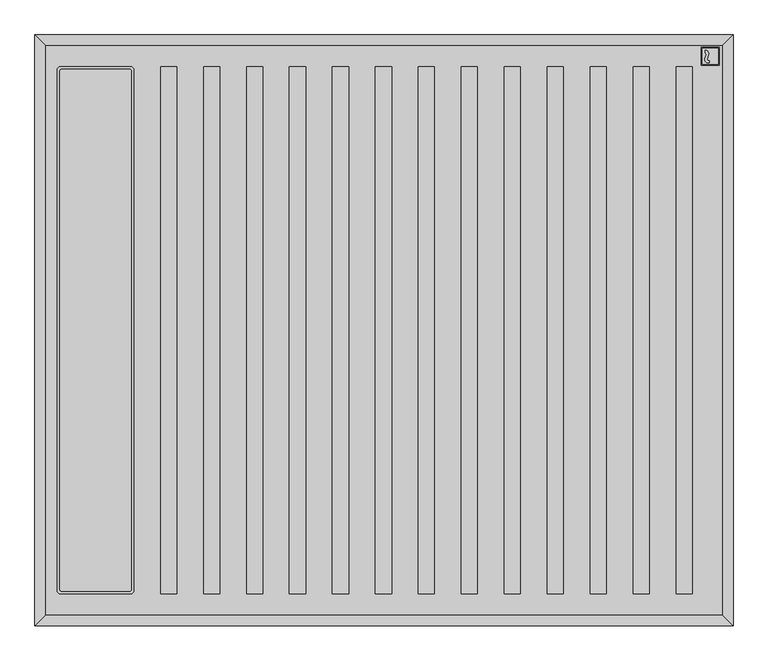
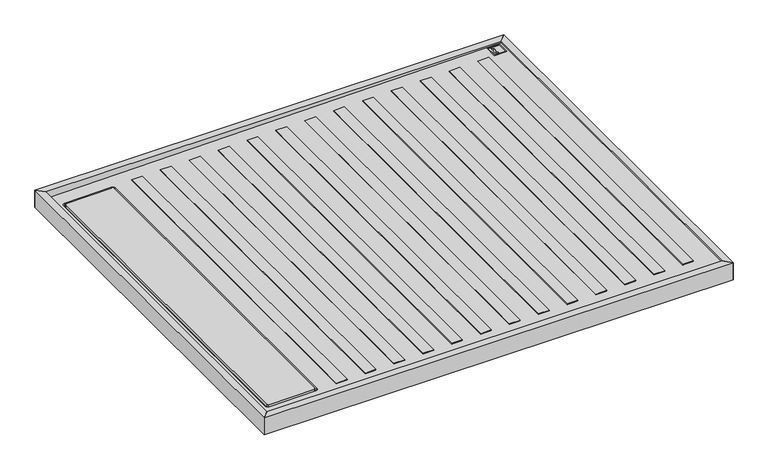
"""IFC4 building model written with IfcOpenShell, lengths in millimetres: flow terminal geometry, Sanitary_Shower-trays_Cosentino_Kador : Kador_130*125."""

from ifc_helpers import new_model, si_unit, point, frame, frame_2d, origin, origin_with_axes, place, context, project, spatial, polyline, circle_curve, ellipse_curve, trimmed, segment, composite_curve, outline, extrude, source, transform, mapped, element, save
from ifc_brep_helpers import plane_surface, cylinder_surface, revolved_surface, advanced_brep


def flow_terminal_0c8ecf02(model_context):
    return source(origin(), model_context, "Body", "SolidModel", [
        advanced_brep(
        [(-470.5, -482.5, 33.7436921), (-470.5, 482.5, 33.7436921), (-474.0, 486.0, 33.7018727), (-600.0, 486.0, 32.1963775), (-603.5, 482.5, 32.1545582), (-603.5, -482.5, 32.1545582), (-600.0, -486.0, 32.1963775), (-474.0, -486.0, 33.7018727), (-474.0, -486.0, 24.9415704), (-600.0, -486.0, 24.9415704), (-603.5, -482.5, 24.9415704), (-603.5, 482.5, 24.9415704), (-600.0, 486.0, 24.9415704), (-474.0, 486.0, 24.9415704), (-470.5, 482.5, 24.9415704), (-470.5, -482.5, 24.9415704)],
        [
            (0, 1),
            (1, 2, ellipse_curve(frame((-474.0, 482.5, 33.7018727), z_axis=(-0.011947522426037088, 0.0, 0.999928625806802), x_axis=(0.999928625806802, 0.0, 0.011947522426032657)), 3.5002498, 3.5)),
            (2, 3),
            (3, 4, ellipse_curve(frame((-600.0, 482.5, 32.1963775), z_axis=(-0.011947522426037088, 0.0, 0.999928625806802), x_axis=(0.999928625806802, 0.0, 0.011947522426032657)), 3.5002498, 3.5)),
            (4, 5),
            (5, 6, ellipse_curve(frame((-600.0, -482.5, 32.1963775), z_axis=(-0.011947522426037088, 0.0, 0.999928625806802), x_axis=(0.999928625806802, 0.0, 0.011947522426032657)), 3.5002498, 3.5)),
            (6, 7),
            (7, 0, ellipse_curve(frame((-474.0, -482.5, 33.7018727), z_axis=(-0.011947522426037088, 0.0, 0.999928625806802), x_axis=(0.999928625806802, 0.0, 0.011947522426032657)), 3.5002498, 3.5)),
            (8, 9),
            (9, 10, circle_curve(frame((-600.0, -482.5, 24.9415704), z_axis=(0.0, 0.0, -1.0), x_axis=(1.0, 0.0, 0.0)), 3.5)),
            (10, 11),
            (11, 12, circle_curve(frame((-600.0, 482.5, 24.9415704), z_axis=(0.0, 0.0, -1.0), x_axis=(1.0, 0.0, 0.0)), 3.5)),
            (12, 13),
            (13, 14, circle_curve(frame((-474.0, 482.5, 24.9415704), z_axis=(0.0, 0.0, -1.0), x_axis=(1.0, 0.0, 0.0)), 3.5)),
            (14, 15),
            (15, 8, circle_curve(frame((-474.0, -482.5, 24.9415704), z_axis=(0.0, 0.0, -1.0), x_axis=(1.0, 0.0, 0.0)), 3.5)),
            (14, 1),
            (0, 15),
            (12, 3),
            (2, 13),
            (10, 5),
            (4, 11),
            (8, 7),
            (6, 9),
        ],
        [
            plane_surface(frame((631.0, 531.0, 46.9048274), z_axis=(-0.011947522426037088, 0.0, 0.999928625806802), x_axis=(0.0, -1.0, 0.0))),
            plane_surface(frame((-470.5, -482.5, 24.9415704), z_axis=(0.0, 0.0, -1.0), x_axis=(0.0, -1.0, 0.0))),
            plane_surface(frame((-470.5, -482.5, 45.0), z_axis=(1.0, 0.0, 0.0), x_axis=(0.0, 0.0, -1.0))),
            plane_surface(frame((-474.0, 486.0, 45.0), z_axis=(0.0, 1.0, 0.0), x_axis=(0.0, 0.0, -1.0))),
            plane_surface(frame((-603.5, 482.5, 45.0), z_axis=(-1.0, 0.0, 0.0), x_axis=(0.0, 0.0, -1.0))),
            plane_surface(frame((-600.0, -486.0, 45.0), z_axis=(0.0, -1.0, 0.0), x_axis=(0.0, 0.0, -1.0))),
            cylinder_surface(frame((-474.0, -482.5, 24.9415704), z_axis=(0.0, 0.0, 1.0), x_axis=(1.0, 0.0, 0.0)), 3.5),
            cylinder_surface(frame((-474.0, 482.5, 24.9415704), z_axis=(0.0, 0.0, 1.0), x_axis=(1.0, 0.0, 0.0)), 3.5),
            cylinder_surface(frame((-600.0, 482.5, 24.9415704), z_axis=(0.0, 0.0, 1.0), x_axis=(1.0, 0.0, 0.0)), 3.5),
            cylinder_surface(frame((-600.0, -482.5, 24.9415704), z_axis=(0.0, 0.0, 1.0), x_axis=(1.0, 0.0, 0.0)), 3.5),
        ],
        [
            (0, [[1, 2, 3, 4, 5, 6, 7, 8]]),
            (1, [[9, 10, 11, 12, 13, 14, 15, 16]]),
            (2, [[-15, 17, -1, 18]]),
            (3, [[-13, 19, -3, 20]]),
            (4, [[-11, 21, -5, 22]]),
            (5, [[-9, 23, -7, 24]]),
            (6, [[-16, -18, -8, -23]]),
            (7, [[-14, -20, -2, -17]]),
            (8, [[-12, -22, -4, -19]]),
            (9, [[-10, -24, -6, -21]]),
        ],
    ),
        extrude(outline(polyline([(34.3948785, -416.0), (10.0, -416.0), (10.0, -386.0), (34.7533298, -386.0), (34.3948785, -416.0)])), frame((0.0, -491.0, 0.0), z_axis=(0.0, 1.0, 0.0), x_axis=(0.0, 0.0, 1.0)), (0.0, 0.0, 1.0), 982.0),
        extrude(outline(polyline([(35.3507485, -336.0), (10.0, -336.0), (10.0, -306.0), (35.7091998, -306.0), (35.3507485, -336.0)])), frame((0.0, -491.0, 0.0), z_axis=(0.0, 1.0, 0.0), x_axis=(0.0, 0.0, 1.0)), (0.0, 0.0, 1.0), 982.0),
        extrude(outline(polyline([(36.3066185, -256.0), (10.0, -256.0), (10.0, -226.0), (36.6650698, -226.0), (36.3066185, -256.0)])), frame((0.0, -491.0, 0.0), z_axis=(0.0, 1.0, 0.0), x_axis=(0.0, 0.0, 1.0)), (0.0, 0.0, 1.0), 982.0),
        extrude(outline(polyline([(37.2624886, -176.0), (10.0, -176.0), (10.0, -146.0), (37.6209398, -146.0), (37.2624886, -176.0)])), frame((0.0, -491.0, 0.0), z_axis=(0.0, 1.0, 0.0), x_axis=(0.0, 0.0, 1.0)), (0.0, 0.0, 1.0), 982.0),
        extrude(outline(polyline([(38.2183586, -96.0), (10.0, -96.0), (10.0, -66.0), (38.5768098, -66.0), (38.2183586, -96.0)])), frame((0.0, -491.0, 0.0), z_axis=(0.0, 1.0, 0.0), x_axis=(0.0, 0.0, 1.0)), (0.0, 0.0, 1.0), 982.0),
        extrude(outline(polyline([(39.1742286, -16.0), (10.0, -16.0), (10.0, 14.0), (39.5326799, 14.0), (39.1742286, -16.0)])), frame((0.0, -491.0, 0.0), z_axis=(0.0, 1.0, 0.0), x_axis=(0.0, 0.0, 1.0)), (0.0, 0.0, 1.0), 982.0),
        extrude(outline(polyline([(40.1300986, 64.0), (10.0, 64.0), (10.0, 94.0), (40.4885499, 94.0), (40.1300986, 64.0)])), frame((0.0, -491.0, 0.0), z_axis=(0.0, 1.0, 0.0), x_axis=(0.0, 0.0, 1.0)), (0.0, 0.0, 1.0), 982.0),
        extrude(outline(polyline([(41.0859686, 144.0), (10.0, 144.0), (10.0, 174.0), (41.4444199, 174.0), (41.0859686, 144.0)])), frame((0.0, -491.0, 0.0), z_axis=(0.0, 1.0, 0.0), x_axis=(0.0, 0.0, 1.0)), (0.0, 0.0, 1.0), 982.0),
        extrude(outline(polyline([(42.0418387, 224.0), (10.0, 224.0), (10.0, 254.0), (42.4002899, 254.0), (42.0418387, 224.0)])), frame((0.0, -491.0, 0.0), z_axis=(0.0, 1.0, 0.0), x_axis=(0.0, 0.0, 1.0)), (0.0, 0.0, 1.0), 982.0),
        extrude(outline(polyline([(42.9977087, 304.0), (10.0, 304.0), (10.0, 334.0), (43.3561599, 334.0), (42.9977087, 304.0)])), frame((0.0, -491.0, 0.0), z_axis=(0.0, 1.0, 0.0), x_axis=(0.0, 0.0, 1.0)), (0.0, 0.0, 1.0), 982.0),
        extrude(outline(polyline([(43.9535787, 384.0), (10.0, 384.0), (10.0, 414.0), (44.31203, 414.0), (43.9535787, 384.0)])), frame((0.0, -491.0, 0.0), z_axis=(0.0, 1.0, 0.0), x_axis=(0.0, 0.0, 1.0)), (0.0, 0.0, 1.0), 982.0),
        extrude(outline(polyline([(44.9094487, 464.0), (10.0, 464.0), (10.0, 494.0), (45.2679, 494.0), (44.9094487, 464.0)])), frame((0.0, -491.0, 0.0), z_axis=(0.0, 1.0, 0.0), x_axis=(0.0, 0.0, 1.0)), (0.0, 0.0, 1.0), 982.0),
        extrude(outline(polyline([(45.8653187, 544.0), (10.0, 544.0), (10.0, 574.0), (46.22377, 574.0), (45.8653187, 544.0)])), frame((0.0, -491.0, 0.0), z_axis=(0.0, 1.0, 0.0), x_axis=(0.0, 0.0, 1.0)), (0.0, 0.0, 1.0), 982.0),
        extrude(outline(polyline([(622.4465505, 525.0929987), (622.4465505, 495.0929987), (592.4465505, 495.0929987), (592.4465505, 525.0929987), (622.4465505, 525.0929987)]), holes=[composite_curve([segment(trimmed(circle_curve(frame_2d((597.7589199, 514.8267757)), 6.7237776), [point((604.1850983, 512.8485396))], [point((598.2600314, 521.5318539))], True, "CARTESIAN"), True, "CONTINUOUS"), segment(polyline([(598.2600314, 521.5318539), (598.2600314, 516.8622316)]), True, "CONTINUOUS"), segment(trimmed(circle_curve(frame_2d((596.3194795, 514.019131)), 3.4422322), [point((598.2600314, 516.8622316))], [point((599.6348515, 513.0932417))], False, "CARTESIAN"), True, "CONTINUOUS"), segment(polyline([(599.6348515, 513.0932417), (597.6685309, 505.7548335)]), True, "CONTINUOUS"), segment(trimmed(circle_curve(frame_2d((603.9268061, 504.2134148)), 6.4453068), [point((597.6685309, 505.7548335))], [point((603.484187, 497.7833239))], True, "CARTESIAN"), True, "CONTINUOUS"), segment(polyline([(603.484187, 497.7833239), (605.5372593, 497.7185302), (605.5372593, 501.7403535), (604.5568828, 501.7561179)]), True, "CONTINUOUS"), segment(trimmed(circle_curve(frame_2d((604.590467, 504.3476489)), 2.5917486), [point((604.5568828, 501.7561179))], [point((602.0870301, 505.0184428))], False, "CARTESIAN"), True, "CONTINUOUS"), segment(polyline([(602.0870301, 505.0184428), (604.1850983, 512.8485396)]), True, "CONTINUOUS")], self_intersect=False)]), frame((0.0, 0.0, 30.3616701), z_axis=(0.0, 0.0, 1.0), x_axis=(1.0, 0.0, 0.0)), (0.0, 0.0, 1.0), 14.6383299),
        extrude(outline(polyline([(624.4465505, 527.0929987), (624.4465505, 493.0929987), (590.4465505, 493.0929987), (590.4465505, 527.0929987), (624.4465505, 527.0929987)]), holes=[polyline([(592.4465505, 525.0929987), (592.4465505, 495.0929987), (622.4465505, 495.0929987), (622.4465505, 525.0929987), (592.4465505, 525.0929987)])]), frame((0.0, 0.0, 30.3616701), z_axis=(0.0, 0.0, 1.0), x_axis=(1.0, 0.0, 0.0)), (0.0, 0.0, 1.0), 14.6383299),
        extrude(outline(composite_curve([segment(polyline([(604.1850983, 512.8485396), (602.0870301, 505.0184428)]), True, "CONTINUOUS"), segment(trimmed(circle_curve(frame_2d((604.590467, 504.3476489)), 2.5917486), [point((602.0870301, 505.0184428))], [point((604.5568828, 501.7561179))], True, "CARTESIAN"), True, "CONTINUOUS"), segment(polyline([(604.5568828, 501.7561179), (605.5372593, 501.7403535), (605.5372593, 497.7185302), (603.484187, 497.7833239)]), True, "CONTINUOUS"), segment(trimmed(circle_curve(frame_2d((603.9268061, 504.2134148)), 6.4453068), [point((603.484187, 497.7833239))], [point((597.6685309, 505.7548335))], False, "CARTESIAN"), True, "CONTINUOUS"), segment(polyline([(597.6685309, 505.7548335), (599.6348515, 513.0932417)]), True, "CONTINUOUS"), segment(trimmed(circle_curve(frame_2d((596.3194795, 514.019131)), 3.4422322), [point((599.6348515, 513.0932417))], [point((598.2600314, 516.8622316))], True, "CARTESIAN"), True, "CONTINUOUS"), segment(polyline([(598.2600314, 516.8622316), (598.2600314, 521.5318539)]), True, "CONTINUOUS"), segment(trimmed(circle_curve(frame_2d((597.7589199, 514.8267757)), 6.7237776), [point((598.2600314, 521.5318539))], [point((604.1850983, 512.8485396))], False, "CARTESIAN"), True, "CONTINUOUS")], self_intersect=False)), frame((0.0, 0.0, 30.3616701), z_axis=(0.0, 0.0, 1.0), x_axis=(1.0, 0.0, 0.0)), (0.0, 0.0, 1.0), 14.6383299),
        advanced_brep(
        [(-631.0, -531.0, 29.925985), (-631.0, -531.0, 10.0), (-620.0, -531.0, 10.0), (631.0, -531.0, 23.0), (631.0, -531.0, 45.0048345), (-631.0, 531.0, 29.925985), (631.0, 531.0, 45.0048345), (631.0, 531.0, 23.0), (-620.0, 531.0, 10.0), (-631.0, 531.0, 10.0), (-575.000878, 0.0, 10.4676168), (-485.000878, 0.0, 11.4028686), (-472.500878, 0.0, 22.0), (-476.7898918, 0.0, 20.0), (-583.2118642, 0.0, 20.0), (-587.500878, 0.0, 22.0), (-485.000878, 0.0, 20.0), (-575.000878, 0.0, 20.0), (-608.5, -484.5, 30.1948234), (-608.5, 484.5, 30.1948234), (-602.0, 491.0, 30.2724879), (-472.0, 491.0, 31.8257766), (-465.5, 484.5, 31.9034411), (-465.5, -484.5, 31.9034411), (-472.0, -491.0, 31.8257766), (-602.0, -491.0, 30.2724879), (-608.5, 484.5, 22.0), (-608.5, -484.5, 22.0), (-602.0, -491.0, 22.0), (-472.0, -491.0, 22.0), (-465.5, -484.5, 22.0), (-465.5, 484.5, 22.0), (-472.0, 491.0, 22.0), (-602.0, 491.0, 22.0)],
        [
            (0, 1),
            (1, 2),
            (2, 3),
            (3, 4),
            (4, 0),
            (5, 6),
            (6, 7),
            (7, 8),
            (8, 9),
            (9, 5),
            (0, 5),
            (9, 1),
            (8, 2),
            (7, 3),
            (10, 11, ellipse_curve(frame((-530.000878, 0.0, 10.9352427), z_axis=(-0.01039112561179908, 0.0, 0.999946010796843), x_axis=(0.9999460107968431, 0.0, 0.010391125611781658)), 45.0024296, 45.0)),
            (11, 10, ellipse_curve(frame((-530.000878, 0.0, 10.9352427), z_axis=(-0.01039112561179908, 0.0, 0.999946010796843), x_axis=(0.9999460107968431, 0.0, 0.010391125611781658)), 45.0024296, 45.0)),
            (12, 13),
            (13, 14, circle_curve(frame((-530.000878, 0.0, 20.0), z_axis=(0.0, 0.0, -1.0), x_axis=(-1.0, 0.0, 0.0)), 53.2109862)),
            (14, 15),
            (15, 12, circle_curve(frame((-530.000878, 0.0, 22.0), z_axis=(0.0, 0.0, 1.0), x_axis=(-1.0, 0.0, 0.0)), 57.5)),
            (12, 15, circle_curve(frame((-530.000878, 0.0, 22.0), z_axis=(0.0, 0.0, 1.0), x_axis=(-1.0, 0.0, 0.0)), 57.5)),
            (14, 13, circle_curve(frame((-530.000878, 0.0, 20.0), z_axis=(0.0, 0.0, -1.0), x_axis=(-1.0, 0.0, 0.0)), 53.2109862)),
            (13, 16),
            (16, 17, circle_curve(frame((-530.000878, 0.0, 20.0), z_axis=(0.0, 0.0, -1.0), x_axis=(-1.0, 0.0, 0.0)), 45.0)),
            (17, 14),
            (17, 16, circle_curve(frame((-530.000878, 0.0, 20.0), z_axis=(0.0, 0.0, -1.0), x_axis=(-1.0, 0.0, 0.0)), 45.0)),
            (16, 11),
            (10, 17),
            (6, 4),
            (18, 19),
            (19, 20, ellipse_curve(frame((-602.0, 484.5, 30.2724879), z_axis=(0.011947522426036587, 0.0, -0.999928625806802), x_axis=(0.9999286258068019, 0.0, 0.011947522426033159)), 6.500464, 6.5)),
            (20, 21),
            (21, 22, ellipse_curve(frame((-472.0, 484.5, 31.8257766), z_axis=(0.011947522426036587, 0.0, -0.999928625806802), x_axis=(0.9999286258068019, 0.0, 0.011947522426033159)), 6.500464, 6.5)),
            (22, 23),
            (23, 24, ellipse_curve(frame((-472.0, -484.5, 31.8257766), z_axis=(0.011947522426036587, 0.0, -0.999928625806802), x_axis=(0.9999286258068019, 0.0, 0.011947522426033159)), 6.500464, 6.5)),
            (24, 25),
            (25, 18, ellipse_curve(frame((-602.0, -484.5, 30.2724879), z_axis=(0.011947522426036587, 0.0, -0.999928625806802), x_axis=(0.9999286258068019, 0.0, 0.011947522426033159)), 6.500464, 6.5)),
            (26, 27),
            (27, 28, circle_curve(frame((-602.0, -484.5, 22.0), z_axis=(0.0, 0.0, 1.0), x_axis=(1.0, 0.0, 0.0)), 6.5)),
            (28, 29),
            (29, 30, circle_curve(frame((-472.0, -484.5, 22.0), z_axis=(0.0, 0.0, 1.0), x_axis=(1.0, 0.0, 0.0)), 6.5)),
            (30, 31),
            (31, 32, circle_curve(frame((-472.0, 484.5, 22.0), z_axis=(0.0, 0.0, 1.0), x_axis=(1.0, 0.0, 0.0)), 6.5)),
            (32, 33),
            (33, 26, circle_curve(frame((-602.0, 484.5, 22.0), z_axis=(0.0, 0.0, 1.0), x_axis=(1.0, 0.0, 0.0)), 6.5)),
            (26, 19),
            (18, 27),
            (25, 28),
            (24, 29),
            (23, 30),
            (22, 31),
            (21, 32),
            (20, 33),
        ],
        [
            plane_surface(frame((-631.0, -531.0, 10.0), z_axis=(0.0, -1.0, 0.0), x_axis=(0.0, 0.0, -1.0))),
            plane_surface(frame((-631.0, 531.0, 10.0), z_axis=(0.0, 1.0, 0.0), x_axis=(0.0, 0.0, 1.0))),
            plane_surface(frame((-631.0, -531.0, 29.925985), z_axis=(-1.0, 0.0, 0.0), x_axis=(0.0, 1.0, 0.0))),
            plane_surface(frame((-631.0, -531.0, 10.0), z_axis=(0.0, 0.0, -1.0), x_axis=(0.0, 1.0, 0.0))),
            plane_surface(frame((-620.0, -531.0, 10.0), z_axis=(0.01039112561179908, 0.0, -0.999946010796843), x_axis=(0.0, 1.0, 0.0))),
            revolved_surface(polyline([(-587.500878, 0.0, 22.0), (-583.2118642, 0.0, 20.0)]), (-530.000878, 0.0, -304.8), (0.0, 0.0, 1.0)),
            plane_surface(frame((-530.000878, 0.0, 20.0), z_axis=(0.0, 0.0, 1.0), x_axis=(-1.0, 0.0, 0.0))),
            revolved_surface(polyline([(-575.000878, 0.0, 20.0), (-575.000878, 0.0, 10.467616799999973)]), (-530.000878, 0.0, -304.8), (0.0, 0.0, 1.0)),
            plane_surface(frame((631.0, -531.0, 23.0), z_axis=(1.0, 0.0, 0.0), x_axis=(0.0, 1.0, 0.0))),
            plane_surface(frame((631.0, -531.0, 45.0048345), z_axis=(-0.011947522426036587, 0.0, 0.999928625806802), x_axis=(0.0, 1.0, 0.0))),
            plane_surface(frame((-608.5, 484.5, 22.0), z_axis=(0.0, 0.0, 1.0), x_axis=(0.0, 1.0, 0.0))),
            plane_surface(frame((-608.5, 484.5, 50.0), z_axis=(1.0, 0.0, 0.0), x_axis=(0.0, 0.0, -1.0))),
            revolved_surface(polyline([(-595.5, -484.5, 30.350152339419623), (-595.5, -484.5, 22.0)]), (-602.0, -484.5, 22.0), (0.0, 0.0, 1.0)),
            plane_surface(frame((-602.0, -491.0, 50.0), z_axis=(0.0, 1.0, 0.0), x_axis=(0.0, 0.0, -1.0))),
            revolved_surface(polyline([(-465.5, -484.5, 31.9034411), (-465.5, -484.5, 22.0)]), (-472.0, -484.5, 22.0), (0.0, 0.0, 1.0)),
            plane_surface(frame((-465.5, -484.5, 50.0), z_axis=(-1.0, 0.0, 0.0), x_axis=(0.0, 0.0, -1.0))),
            revolved_surface(polyline([(-465.5, 484.5, 31.9034411), (-465.5, 484.5, 22.0)]), (-472.0, 484.5, 22.0), (0.0, 0.0, 1.0)),
            plane_surface(frame((-472.0, 491.0, 50.0), z_axis=(0.0, -1.0, 0.0), x_axis=(0.0, 0.0, -1.0))),
            revolved_surface(polyline([(-595.5, 484.5, 30.350152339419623), (-595.5, 484.5, 22.0)]), (-602.0, 484.5, 22.0), (0.0, 0.0, 1.0)),
        ],
        [
            (0, [[1, 2, 3, 4, 5]]),
            (1, [[6, 7, 8, 9, 10]]),
            (2, [[-1, 11, -10, 12]]),
            (3, [[-2, -12, -9, 13]]),
            (4, [[-3, -13, -8, 14], [15, 16]]),
            (5, [[17, 18, 19, 20]]),
            (5, [[-17, 21, -19, 22]]),
            (6, [[-18, 23, 24, 25]]),
            (6, [[-22, -25, 26, -23]]),
            (7, [[-24, 27, -15, 28]]),
            (7, [[-26, -28, -16, -27]]),
            (8, [[-4, -14, -7, 29]]),
            (9, [[-5, -29, -6, -11], [30, 31, 32, 33, 34, 35, 36, 37]]),
            (10, [[38, 39, 40, 41, 42, 43, 44, 45], [-20, -21]]),
            (11, [[-38, 46, -30, 47]]),
            (12, [[-39, -47, -37, 48]]),
            (13, [[-40, -48, -36, 49]]),
            (14, [[-41, -49, -35, 50]]),
            (15, [[-42, -50, -34, 51]]),
            (16, [[-43, -51, -33, 52]]),
            (17, [[-44, -52, -32, 53]]),
            (18, [[-45, -53, -31, -46]]),
        ],
    ),
        extrude(outline(polyline([(-650.0, -550.0), (-650.0, 550.0), (-631.0, 531.0), (-631.0, -531.0), (-650.0, -550.0)])), origin_with_axes(), (0.0, 0.0, 1.0), 50.0),
        extrude(outline(polyline([(650.0, -550.0), (631.0, -531.0), (631.0, 531.0), (650.0, 550.0), (650.0, -550.0)])), origin_with_axes(), (0.0, 0.0, 1.0), 50.0),
        extrude(outline(polyline([(650.0, 550.0), (631.0, 531.0), (-631.0, 531.0), (-650.0, 550.0), (650.0, 550.0)])), origin_with_axes(), (0.0, 0.0, 1.0), 50.0),
        extrude(outline(polyline([(650.0, -550.0), (-650.0, -550.0), (-631.0, -531.0), (631.0, -531.0), (650.0, -550.0)])), origin_with_axes(), (0.0, 0.0, 1.0), 50.0),
    ])


if __name__ == "__main__":
    model = new_model("IFC4")
    model_context = context("Model", 3, world=origin())
    ifc_project = project(units=[si_unit("LENGTHUNIT", "METRE", prefix="MILLI")], contexts=[model_context])
    site = spatial("IfcSite", under=ifc_project)
    building = spatial("IfcBuilding", under=site)
    placement = place(None, origin())
    flow_terminal_shape = flow_terminal_0c8ecf02(model_context)
    element("IfcFlowTerminal", 1, ObjectType="Sanitary_Shower-trays_Cosentino_Kador : Kador_130*125", at=placement, inside=building, context=model_context, shape_type="MappedRepresentation", body=[
        mapped(flow_terminal_shape, transform((0.0, 0.0, 0.0), x_axis=(1.0, 0.0, 0.0), y_axis=(0.0, 1.0, 0.0), z_axis=(0.0, 0.0, 1.0))),
    ])
    save(model, "model.ifc")
